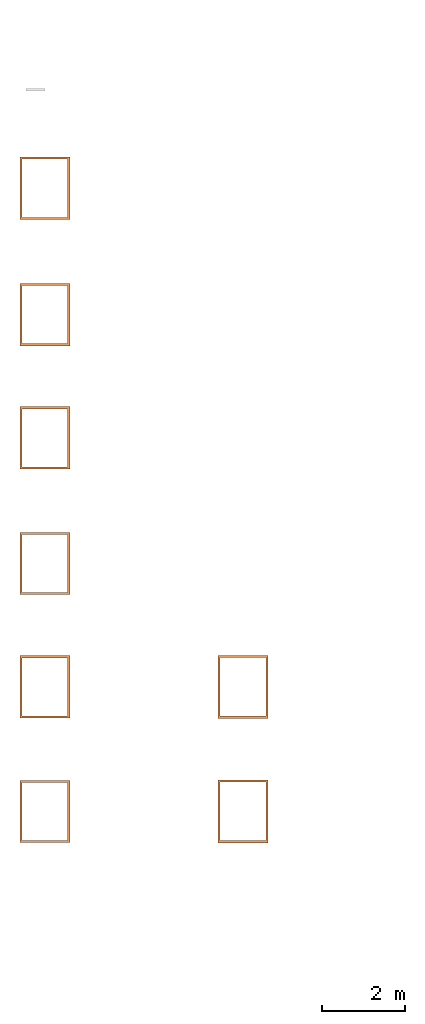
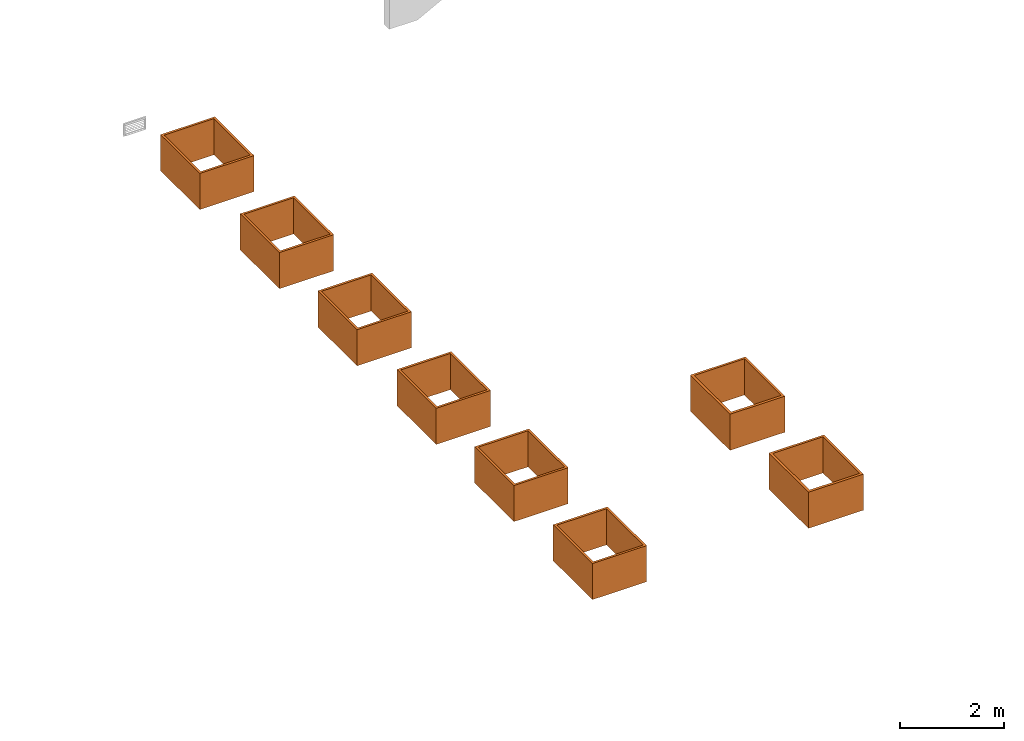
# One storey, part 5 of 6: 1 proxy.
"""IFC2X3 building model written with IfcOpenShell, lengths in metres."""

from ifc_helpers import new_model, entity, si_unit, converted_unit, derived_unit, direction, frame, origin, place, context, subcontext, project, spatial, polyline, outline, extrude, source, transform, mapped, type_object, type_shapes, element, save


model = new_model("IFC2X3")

# Units and contexts
model_context = context("Model", 3, precision=1e-05, world=origin(), true_north=direction((6.12303176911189e-17, 1.0)))
body_context = subcontext(model_context, "Body", "Model", "MODEL_VIEW")
ifc_project = project(units=[si_unit("LENGTHUNIT", "METRE"), si_unit("AREAUNIT", "SQUARE_METRE"), si_unit("VOLUMEUNIT", "CUBIC_METRE"), converted_unit("PLANEANGLEUNIT", "DEGREE", entity("IfcRatioMeasure", 0.0174532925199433), si_unit("PLANEANGLEUNIT", "RADIAN"), dimensions=[0, 0, 0, 0, 0, 0, 0]), si_unit("MASSUNIT", "GRAM", prefix="KILO"), derived_unit("MASSDENSITYUNIT", [(si_unit("MASSUNIT", "GRAM", prefix="KILO"), 1), (si_unit("LENGTHUNIT", "METRE"), -3)]), derived_unit("MOMENTOFINERTIAUNIT", [(si_unit("LENGTHUNIT", "METRE"), 4)]), si_unit("TIMEUNIT", "SECOND"), si_unit("FREQUENCYUNIT", "HERTZ"), si_unit("THERMODYNAMICTEMPERATUREUNIT", "DEGREE_CELSIUS"), derived_unit("THERMALTRANSMITTANCEUNIT", [(si_unit("MASSUNIT", "GRAM", prefix="KILO"), 1), (si_unit("THERMODYNAMICTEMPERATUREUNIT", "KELVIN"), -1), (si_unit("TIMEUNIT", "SECOND"), -3)]), derived_unit("VOLUMETRICFLOWRATEUNIT", [(si_unit("LENGTHUNIT", "METRE"), 3), (si_unit("TIMEUNIT", "SECOND"), -1)]), si_unit("ELECTRICCURRENTUNIT", "AMPERE"), si_unit("ELECTRICVOLTAGEUNIT", "VOLT"), si_unit("POWERUNIT", "WATT"), si_unit("FORCEUNIT", "NEWTON", prefix="KILO"), si_unit("ILLUMINANCEUNIT", "LUX"), si_unit("LUMINOUSFLUXUNIT", "LUMEN"), si_unit("LUMINOUSINTENSITYUNIT", "CANDELA"), derived_unit("USERDEFINED", [(si_unit("MASSUNIT", "GRAM", prefix="KILO"), -1), (si_unit("LENGTHUNIT", "METRE"), -2), (si_unit("TIMEUNIT", "SECOND"), 3), (si_unit("LUMINOUSFLUXUNIT", "LUMEN"), 1)]), derived_unit("LINEARVELOCITYUNIT", [(si_unit("LENGTHUNIT", "METRE"), 1), (si_unit("TIMEUNIT", "SECOND"), -1)]), si_unit("PRESSUREUNIT", "PASCAL"), derived_unit("USERDEFINED", [(si_unit("LENGTHUNIT", "METRE"), -2), (si_unit("MASSUNIT", "GRAM", prefix="KILO"), 1), (si_unit("TIMEUNIT", "SECOND"), -2)]), derived_unit("LINEARFORCEUNIT", [(si_unit("MASSUNIT", "GRAM", prefix="KILO"), 1), (si_unit("LENGTHUNIT", "METRE"), 1), (si_unit("TIMEUNIT", "SECOND"), -2), (si_unit("LENGTHUNIT", "METRE"), -1)]), derived_unit("PLANARFORCEUNIT", [(si_unit("MASSUNIT", "GRAM", prefix="KILO"), 1), (si_unit("LENGTHUNIT", "METRE"), 1), (si_unit("TIMEUNIT", "SECOND"), -2), (si_unit("LENGTHUNIT", "METRE"), -2)])], contexts=[model_context])

# Site, building, storey
site_placement = place(None, origin())
site = spatial("IfcSite", under=ifc_project, at=site_placement, Name="Default", CompositionType="ELEMENT")
building_placement = place(site_placement, origin())
building = spatial("IfcBuilding", under=site, at=building_placement, CompositionType="ELEMENT")
storey_placement = place(building_placement, frame((0.0, 0.0, 2.31330827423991)))
storey = spatial("IfcBuildingStorey", under=building, at=storey_placement, Name="Niveau 00 - 03", CompositionType="ELEMENT", Elevation=2.31330827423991)

# Proxy
building_element_proxy_type = type_object("IfcBuildingElementProxyType", Name="Modèles génériques 2:Modèles génériques 2", PredefinedType="NOTDEFINED")
shared_shape = source(origin(), body_context, "Body", "SweptSolid", [
    extrude(outline(polyline([(-0.7575, -0.607499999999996), (0.7575, -0.607499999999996), (0.7575, 0.6075), (-0.7575, 0.6075), (-0.7575, -0.607499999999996)]), holes=[polyline([(-0.700000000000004, -0.557499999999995), (-0.700000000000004, 0.550000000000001), (0.7075, 0.550000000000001), (0.7075, -0.557499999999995), (-0.700000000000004, -0.557499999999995)])]), frame((-28.4909246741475, -6.60282297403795, 3.11), z_axis=(0.0, 0.0, 1.0), x_axis=(0.0, 1.0, 0.0)), (0.0, 0.0, 1.0), 0.843308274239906),
    extrude(outline(polyline([(-0.749999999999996, -0.599999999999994), (0.749999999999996, -0.599999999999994), (0.749999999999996, 0.600000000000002), (-0.749999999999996, 0.600000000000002), (-0.749999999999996, -0.599999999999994)]), holes=[polyline([(-0.699999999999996, -0.549999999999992), (-0.699999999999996, 0.550000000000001), (0.699999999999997, 0.550000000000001), (0.699999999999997, -0.549999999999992), (-0.699999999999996, -0.549999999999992)])]), frame((-33.2690462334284, 5.42171116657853, 3.11), z_axis=(0.0, 0.0, 1.0), x_axis=(0.0, 1.0, 0.0)), (0.0, 0.0, 1.0), 0.843308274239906),
    extrude(outline(polyline([(-0.749999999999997, -0.599999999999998), (0.749999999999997, -0.599999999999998), (0.749999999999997, 0.599999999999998), (-0.749999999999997, 0.599999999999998), (-0.749999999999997, -0.599999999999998)]), holes=[polyline([(-0.699999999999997, -0.549999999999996), (-0.699999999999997, 0.549999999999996), (0.699999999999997, 0.549999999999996), (0.699999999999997, -0.549999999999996), (-0.699999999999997, -0.549999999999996)])]), frame((-33.2690462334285, 2.37217702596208, 3.11), z_axis=(0.0, 0.0, 1.0), x_axis=(0.0, 1.0, 0.0)), (0.0, 0.0, 1.0), 0.843308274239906),
    extrude(outline(polyline([(-0.749999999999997, -0.599999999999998), (0.749999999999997, -0.599999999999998), (0.749999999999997, 0.599999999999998), (-0.749999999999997, 0.599999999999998), (-0.749999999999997, -0.599999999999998)]), holes=[polyline([(-0.699999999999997, -0.549999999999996), (-0.699999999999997, 0.549999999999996), (0.699999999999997, 0.549999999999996), (0.699999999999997, -0.549999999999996), (-0.699999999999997, -0.549999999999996)])]), frame((-33.2690462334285, -0.597357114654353, 3.11), z_axis=(0.0, 0.0, 1.0), x_axis=(0.0, 1.0, 0.0)), (0.0, 0.0, 1.0), 0.843308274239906),
    extrude(outline(polyline([(-0.749999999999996, -0.599999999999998), (0.749999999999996, -0.599999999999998), (0.749999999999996, 0.599999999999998), (-0.749999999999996, 0.599999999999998), (-0.749999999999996, -0.599999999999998)]), holes=[polyline([(-0.699999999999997, -0.549999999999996), (-0.699999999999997, 0.549999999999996), (0.699999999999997, 0.549999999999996), (0.699999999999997, -0.549999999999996), (-0.699999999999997, -0.549999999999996)])]), frame((-33.2690462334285, -3.62689125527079, 3.11), z_axis=(0.0, 0.0, 1.0), x_axis=(0.0, 1.0, 0.0)), (0.0, 0.0, 1.0), 0.843308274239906),
    extrude(outline(polyline([(-0.749999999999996, -0.600000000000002), (0.749999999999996, -0.600000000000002), (0.749999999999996, 0.599999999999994), (-0.749999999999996, 0.599999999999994), (-0.749999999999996, -0.600000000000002)]), holes=[polyline([(-0.699999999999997, -0.550000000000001), (-0.699999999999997, 0.549999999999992), (0.699999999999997, 0.549999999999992), (0.699999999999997, -0.550000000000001), (-0.699999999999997, -0.550000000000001)])]), frame((-33.2690462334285, -6.60282297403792, 3.11), z_axis=(0.0, 0.0, 1.0), x_axis=(0.0, 1.0, 0.0)), (0.0, 0.0, 1.0), 0.843308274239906),
    extrude(outline(polyline([(-0.749999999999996, -0.599999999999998), (0.749999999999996, -0.599999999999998), (0.749999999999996, 0.599999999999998), (-0.749999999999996, 0.599999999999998), (-0.749999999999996, -0.599999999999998)]), holes=[polyline([(-0.699999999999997, -0.549999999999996), (-0.699999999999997, 0.549999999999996), (0.699999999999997, 0.549999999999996), (0.699999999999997, -0.549999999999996), (-0.699999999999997, -0.549999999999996)])]), frame((-33.2690462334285, -9.60782297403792, 3.11), z_axis=(0.0, 0.0, 1.0), x_axis=(0.0, 1.0, 0.0)), (0.0, 0.0, 1.0), 0.843308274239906),
    extrude(outline(polyline([(-0.757499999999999, -0.6075), (0.757500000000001, -0.6075), (0.757500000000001, 0.607499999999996), (-0.757499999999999, 0.607499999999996), (-0.757499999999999, -0.6075)]), holes=[polyline([(-0.700000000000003, -0.557499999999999), (-0.700000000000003, 0.549999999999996), (0.707500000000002, 0.549999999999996), (0.707500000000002, -0.557499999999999), (-0.700000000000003, -0.557499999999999)])]), frame((-28.4909246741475, -9.60782297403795, 3.11), z_axis=(0.0, 0.0, 1.0), x_axis=(0.0, 1.0, 0.0)), (0.0, 0.0, 1.0), 0.843308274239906),
])
type_shapes(building_element_proxy_type, [shared_shape])
proxy_placement = place(storey_placement, frame((0.0, 0.0, -2.31330827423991)))
element("IfcBuildingElementProxy", 1, at=proxy_placement, inside=storey, type_object=building_element_proxy_type, Name="Modèles génériques 2:Modèles génériques 2", ObjectType="Modèles génériques 2:Modèles génériques 2", context=body_context, shape_type="MappedRepresentation", body=[
    mapped(shared_shape, transform((0.0, 0.0, 0.0), scale=1.0)),
])

save(model, "model.ifc")
